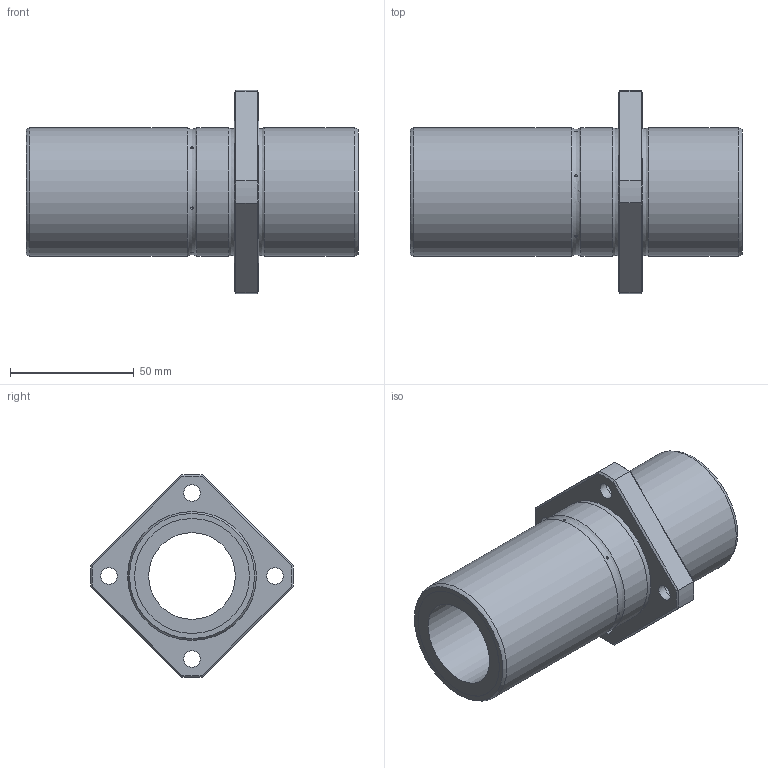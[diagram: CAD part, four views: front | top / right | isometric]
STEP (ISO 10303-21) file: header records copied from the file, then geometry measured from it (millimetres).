
FILE_DESCRIPTION((''),'2;1');
FILE_NAME('D:\製品 (図面)\カタログ用3D\リニアベアリング関連\STEP形式\LFDK-OH\LFDK35-OH.stp','2010-06-03T09:42:26',('Tsuchiya'),(''),'Autodesk Inventor 10','Autodesk Inventor 10','');
FILE_SCHEMA(('AUTOMOTIVE_DESIGN { 1 0 10303 214 1 1 1 1 }'));
Length unit declared in the file: millimetre
Products named in the file (1): LFDK35-OH
Bounding box: 134 x 81.94 x 81.94 mm (x, y, z)
Volume: 170647.3 mm3; surface area: 44274.5 mm2
Topology: 1 solids, 1 shells, 65 faces, 131 edges, 82 vertices
Faces by surface type: bspline 21, plane 18, cylinder 16, cone 8, torus 2
Full cylindrical faces by diameter (mm): 35 x1, 46.4 x2, 52 x3
Entity records: 2403 total; most frequent: CARTESIAN_POINT 1232, DIRECTION 210, ORIENTED_EDGE 200, EDGE_LOOP 114, EDGE_CURVE 100, AXIS2_PLACEMENT_3D 93, VERTEX_POINT 76, FACE_OUTER_BOUND 65
